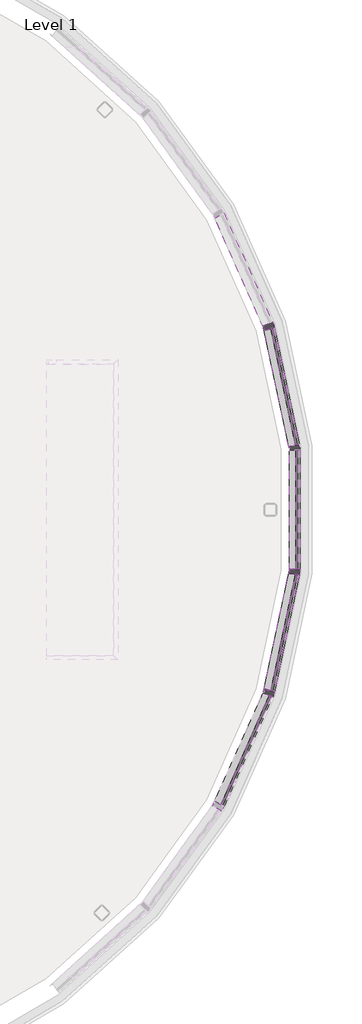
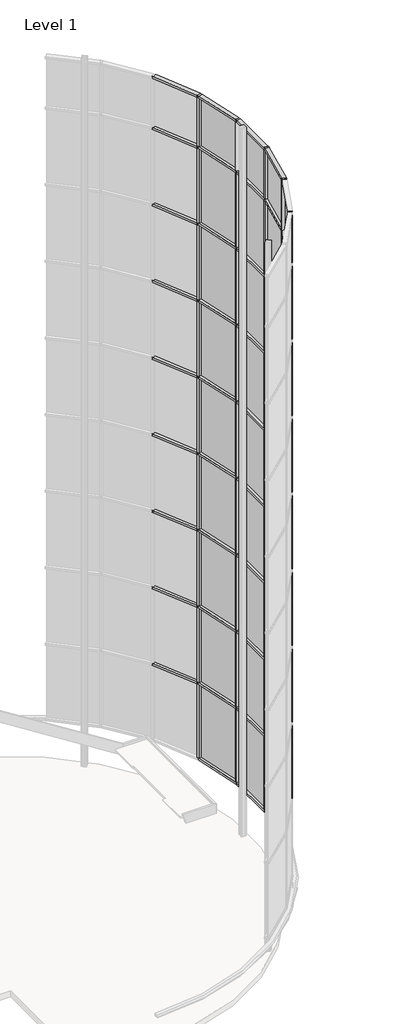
# One storey, part 12 of 16: 83 members, 36 plates.
"""IFC4 building model written with IfcOpenShell, lengths in millimetres."""

from ifc_helpers import new_model, si_unit, origin, place, context, project, spatial, transform, mapped, element, save
from components import member_45463520, member_1666ebf7, member_f0fea5a5, member_788d4f16, system_panel_glazed_294e175a, system_panel_glazed_36605c35, system_panel_glazed_41a16be2

model = new_model("IFC4")

# Units and contexts
model_context = context("Model", 3, world=origin())
ifc_project = project(units=[si_unit("LENGTHUNIT", "METRE", prefix="MILLI")], contexts=[model_context])

# Site, building, storey
site = spatial("IfcSite", under=ifc_project)
building = spatial("IfcBuilding", under=site)
storey = spatial("IfcBuildingStorey", under=building, Name="Level 1", Elevation=0.0)

# Members
placement = place(None, origin())
member_shape = member_45463520(model_context)
element("IfcMember", 1, ObjectType="Rectangular Mullion : 2.5\" x 5\" rectangular", at=placement, inside=storey, context=model_context, shape_type="MappedRepresentation", body=[
    mapped(member_shape, transform((21875.9289382, 7664.1722393, 22250.4), x_axis=(0.0, 0.0, 1.0), y_axis=(-0.9135454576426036, -0.4067366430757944, 0.0), z_axis=(0.4067366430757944, -0.9135454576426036, 0.0))),
])
element("IfcMember", 2, ObjectType="Rectangular Mullion : 2.5\" x 5\" rectangular", at=placement, inside=storey, context=model_context, shape_type="MappedRepresentation", body=[
    mapped(member_shape, transform((22192.5404283, 6206.3822899, 22250.4), x_axis=(0.0, 0.0, 1.0), y_axis=(-0.9781476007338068, -0.20791169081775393, 0.0), z_axis=(0.20791169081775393, -0.9781476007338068, 0.0))),
])
element("IfcMember", 3, ObjectType="Rectangular Mullion : 2.5\" x 5\" rectangular", at=placement, inside=storey, context=model_context, shape_type="MappedRepresentation", body=[
    mapped(member_shape, transform((22199.1416245, 4714.6213182, 22250.4), x_axis=(0.0, 0.0, 1.0), y_axis=(-1.0, 0.0, 0.0), z_axis=(0.0, -1.0, 0.0))),
])
element("IfcMember", 4, ObjectType="Rectangular Mullion : 2.5\" x 5\" rectangular", at=placement, inside=storey, context=model_context, shape_type="MappedRepresentation", body=[
    mapped(member_shape, transform((21895.4440228, 3254.0864371, 22250.4), x_axis=(0.0, 0.0, 1.0), y_axis=(-0.9781476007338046, 0.20791169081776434, 0.0), z_axis=(-0.20791169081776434, -0.9781476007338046, 0.0))),
])
element("IfcMember", 5, ObjectType="Rectangular Mullion : 2.5\" x 5\" rectangular", at=placement, inside=storey, context=model_context, shape_type="MappedRepresentation", body=[
    mapped(member_shape, transform((21895.4440228, 7604.1109847, 1092.2), x_axis=(0.0, 0.0, -1.0), y_axis=(-0.978147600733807, -0.2079116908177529, 0.0), z_axis=(-0.2079116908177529, 0.978147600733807, 0.0))),
])
element("IfcMember", 6, ObjectType="Rectangular Mullion : 2.5\" x 5\" rectangular", at=placement, inside=storey, context=model_context, shape_type="MappedRepresentation", body=[
    mapped(member_shape, transform((22199.1416245, 6143.5761036, 1092.2), x_axis=(0.0, 0.0, -1.0), y_axis=(-1.0, 0.0, 0.0), z_axis=(0.0, 1.0, 0.0))),
])
element("IfcMember", 7, ObjectType="Rectangular Mullion : 2.5\" x 5\" rectangular", at=placement, inside=storey, context=model_context, shape_type="MappedRepresentation", body=[
    mapped(member_shape, transform((22192.5404283, 4651.8151319, 1092.2), x_axis=(0.0, 0.0, -1.0), y_axis=(-0.9781476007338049, 0.20791169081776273, 0.0), z_axis=(0.20791169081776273, 0.9781476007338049, 0.0))),
])
element("IfcMember", 8, ObjectType="Rectangular Mullion : 2.5\" x 5\" rectangular", at=placement, inside=storey, context=model_context, shape_type="MappedRepresentation", body=[
    mapped(member_shape, transform((21875.9289382, 3194.0251825, 1092.2), x_axis=(0.0, 0.0, -1.0), y_axis=(-0.9135454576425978, 0.4067366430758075, 0.0), z_axis=(0.4067366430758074, 0.9135454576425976, 0.0))),
])
member_2_shape = member_1666ebf7(model_context)
element("IfcMember", 9, ObjectType="Rectangular Mullion : 2.5\" x 5\" rectangular", at=placement, inside=storey, context=model_context, shape_type="MappedRepresentation", body=[
    mapped(member_2_shape, transform((21875.9289382, 7664.1722393, 3530.6), x_axis=(0.0, 0.0, 1.0), y_axis=(-0.9135454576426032, -0.4067366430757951, 0.0), z_axis=(0.4067366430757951, -0.9135454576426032, 0.0))),
])
element("IfcMember", 10, ObjectType="Rectangular Mullion : 2.5\" x 5\" rectangular", at=placement, inside=storey, context=model_context, shape_type="MappedRepresentation", body=[
    mapped(member_2_shape, transform((22192.5404283, 6206.3822899, 3530.6), x_axis=(0.0, 0.0, 1.0), y_axis=(-0.9781476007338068, -0.20791169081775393, 0.0), z_axis=(0.20791169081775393, -0.9781476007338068, 0.0))),
])
element("IfcMember", 11, ObjectType="Rectangular Mullion : 2.5\" x 5\" rectangular", at=placement, inside=storey, context=model_context, shape_type="MappedRepresentation", body=[
    mapped(member_2_shape, transform((22199.1416245, 4714.6213182, 3530.6), x_axis=(0.0, 0.0, 1.0), y_axis=(-1.0, 0.0, 0.0), z_axis=(0.0, -1.0, 0.0))),
])
element("IfcMember", 12, ObjectType="Rectangular Mullion : 2.5\" x 5\" rectangular", at=placement, inside=storey, context=model_context, shape_type="MappedRepresentation", body=[
    mapped(member_2_shape, transform((21895.4440228, 3254.0864371, 3530.6), x_axis=(0.0, 0.0, 1.0), y_axis=(-0.9781476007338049, 0.20791169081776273, 0.0), z_axis=(-0.20791169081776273, -0.9781476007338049, 0.0))),
])
element("IfcMember", 13, ObjectType="Rectangular Mullion : 2.5\" x 5\" rectangular", at=placement, inside=storey, context=model_context, shape_type="MappedRepresentation", body=[
    mapped(member_2_shape, transform((21875.9289382, 7664.1722393, 5969.0), x_axis=(0.0, 0.0, 1.0), y_axis=(-0.9135454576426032, -0.4067366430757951, 0.0), z_axis=(0.4067366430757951, -0.9135454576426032, 0.0))),
])
element("IfcMember", 14, ObjectType="Rectangular Mullion : 2.5\" x 5\" rectangular", at=placement, inside=storey, context=model_context, shape_type="MappedRepresentation", body=[
    mapped(member_2_shape, transform((22192.5404283, 6206.3822899, 5969.0), x_axis=(0.0, 0.0, 1.0), y_axis=(-0.9781476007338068, -0.20791169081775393, 0.0), z_axis=(0.20791169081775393, -0.9781476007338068, 0.0))),
])
element("IfcMember", 15, ObjectType="Rectangular Mullion : 2.5\" x 5\" rectangular", at=placement, inside=storey, context=model_context, shape_type="MappedRepresentation", body=[
    mapped(member_2_shape, transform((22199.1416245, 4714.6213182, 5969.0), x_axis=(0.0, 0.0, 1.0), y_axis=(-1.0, 0.0, 0.0), z_axis=(0.0, -1.0, 0.0))),
])
element("IfcMember", 16, ObjectType="Rectangular Mullion : 2.5\" x 5\" rectangular", at=placement, inside=storey, context=model_context, shape_type="MappedRepresentation", body=[
    mapped(member_2_shape, transform((21895.4440228, 3254.0864371, 5969.0), x_axis=(0.0, 0.0, 1.0), y_axis=(-0.9781476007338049, 0.20791169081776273, 0.0), z_axis=(-0.20791169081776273, -0.9781476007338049, 0.0))),
])
element("IfcMember", 17, ObjectType="Rectangular Mullion : 2.5\" x 5\" rectangular", at=placement, inside=storey, context=model_context, shape_type="MappedRepresentation", body=[
    mapped(member_2_shape, transform((21875.9289382, 7664.1722393, 8407.4), x_axis=(0.0, 0.0, 1.0), y_axis=(-0.9135454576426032, -0.4067366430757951, 0.0), z_axis=(0.4067366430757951, -0.9135454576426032, 0.0))),
])
element("IfcMember", 18, ObjectType="Rectangular Mullion : 2.5\" x 5\" rectangular", at=placement, inside=storey, context=model_context, shape_type="MappedRepresentation", body=[
    mapped(member_2_shape, transform((22192.5404283, 6206.3822899, 8407.4), x_axis=(0.0, 0.0, 1.0), y_axis=(-0.9781476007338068, -0.20791169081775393, 0.0), z_axis=(0.20791169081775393, -0.9781476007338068, 0.0))),
])
element("IfcMember", 19, ObjectType="Rectangular Mullion : 2.5\" x 5\" rectangular", at=placement, inside=storey, context=model_context, shape_type="MappedRepresentation", body=[
    mapped(member_2_shape, transform((22199.1416245, 4714.6213182, 8407.4), x_axis=(0.0, 0.0, 1.0), y_axis=(-1.0, 0.0, 0.0), z_axis=(0.0, -1.0, 0.0))),
])
element("IfcMember", 20, ObjectType="Rectangular Mullion : 2.5\" x 5\" rectangular", at=placement, inside=storey, context=model_context, shape_type="MappedRepresentation", body=[
    mapped(member_2_shape, transform((21895.4440228, 3254.0864371, 8407.4), x_axis=(0.0, 0.0, 1.0), y_axis=(-0.9781476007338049, 0.20791169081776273, 0.0), z_axis=(-0.20791169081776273, -0.9781476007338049, 0.0))),
])
element("IfcMember", 21, ObjectType="Rectangular Mullion : 2.5\" x 5\" rectangular", at=placement, inside=storey, context=model_context, shape_type="MappedRepresentation", body=[
    mapped(member_2_shape, transform((21875.9289382, 7664.1722393, 10845.8), x_axis=(0.0, 0.0, 1.0), y_axis=(-0.9135454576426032, -0.4067366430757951, 0.0), z_axis=(0.4067366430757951, -0.9135454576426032, 0.0))),
])
element("IfcMember", 22, ObjectType="Rectangular Mullion : 2.5\" x 5\" rectangular", at=placement, inside=storey, context=model_context, shape_type="MappedRepresentation", body=[
    mapped(member_2_shape, transform((22192.5404283, 6206.3822899, 10845.8), x_axis=(0.0, 0.0, 1.0), y_axis=(-0.9781476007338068, -0.20791169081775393, 0.0), z_axis=(0.20791169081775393, -0.9781476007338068, 0.0))),
])
element("IfcMember", 23, ObjectType="Rectangular Mullion : 2.5\" x 5\" rectangular", at=placement, inside=storey, context=model_context, shape_type="MappedRepresentation", body=[
    mapped(member_2_shape, transform((22199.1416245, 4714.6213182, 10845.8), x_axis=(0.0, 0.0, 1.0), y_axis=(-1.0, 0.0, 0.0), z_axis=(0.0, -1.0, 0.0))),
])
element("IfcMember", 24, ObjectType="Rectangular Mullion : 2.5\" x 5\" rectangular", at=placement, inside=storey, context=model_context, shape_type="MappedRepresentation", body=[
    mapped(member_2_shape, transform((21895.4440228, 3254.0864371, 10845.8), x_axis=(0.0, 0.0, 1.0), y_axis=(-0.9781476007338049, 0.20791169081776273, 0.0), z_axis=(-0.20791169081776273, -0.9781476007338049, 0.0))),
])
element("IfcMember", 25, ObjectType="Rectangular Mullion : 2.5\" x 5\" rectangular", at=placement, inside=storey, context=model_context, shape_type="MappedRepresentation", body=[
    mapped(member_2_shape, transform((21875.9289382, 7664.1722393, 13284.2), x_axis=(0.0, 0.0, 1.0), y_axis=(-0.9135454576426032, -0.4067366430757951, 0.0), z_axis=(0.4067366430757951, -0.9135454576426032, 0.0))),
])
element("IfcMember", 26, ObjectType="Rectangular Mullion : 2.5\" x 5\" rectangular", at=placement, inside=storey, context=model_context, shape_type="MappedRepresentation", body=[
    mapped(member_2_shape, transform((22192.5404283, 6206.3822899, 13284.2), x_axis=(0.0, 0.0, 1.0), y_axis=(-0.9781476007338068, -0.20791169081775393, 0.0), z_axis=(0.20791169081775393, -0.9781476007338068, 0.0))),
])
element("IfcMember", 27, ObjectType="Rectangular Mullion : 2.5\" x 5\" rectangular", at=placement, inside=storey, context=model_context, shape_type="MappedRepresentation", body=[
    mapped(member_2_shape, transform((22199.1416245, 4714.6213182, 13284.2), x_axis=(0.0, 0.0, 1.0), y_axis=(-1.0, 0.0, 0.0), z_axis=(0.0, -1.0, 0.0))),
])
element("IfcMember", 28, ObjectType="Rectangular Mullion : 2.5\" x 5\" rectangular", at=placement, inside=storey, context=model_context, shape_type="MappedRepresentation", body=[
    mapped(member_2_shape, transform((21895.4440228, 3254.0864371, 13284.2), x_axis=(0.0, 0.0, 1.0), y_axis=(-0.9781476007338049, 0.20791169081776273, 0.0), z_axis=(-0.20791169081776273, -0.9781476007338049, 0.0))),
])
element("IfcMember", 29, ObjectType="Rectangular Mullion : 2.5\" x 5\" rectangular", at=placement, inside=storey, context=model_context, shape_type="MappedRepresentation", body=[
    mapped(member_2_shape, transform((21875.9289382, 7664.1722393, 15722.6), x_axis=(0.0, 0.0, 1.0), y_axis=(-0.9135454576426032, -0.4067366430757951, 0.0), z_axis=(0.4067366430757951, -0.9135454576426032, 0.0))),
])
element("IfcMember", 30, ObjectType="Rectangular Mullion : 2.5\" x 5\" rectangular", at=placement, inside=storey, context=model_context, shape_type="MappedRepresentation", body=[
    mapped(member_2_shape, transform((22192.5404283, 6206.3822899, 15722.6), x_axis=(0.0, 0.0, 1.0), y_axis=(-0.9781476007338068, -0.20791169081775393, 0.0), z_axis=(0.20791169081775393, -0.9781476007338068, 0.0))),
])
element("IfcMember", 31, ObjectType="Rectangular Mullion : 2.5\" x 5\" rectangular", at=placement, inside=storey, context=model_context, shape_type="MappedRepresentation", body=[
    mapped(member_2_shape, transform((22199.1416245, 4714.6213182, 15722.6), x_axis=(0.0, 0.0, 1.0), y_axis=(-1.0, 0.0, 0.0), z_axis=(0.0, -1.0, 0.0))),
])
element("IfcMember", 32, ObjectType="Rectangular Mullion : 2.5\" x 5\" rectangular", at=placement, inside=storey, context=model_context, shape_type="MappedRepresentation", body=[
    mapped(member_2_shape, transform((21895.4440228, 3254.0864371, 15722.6), x_axis=(0.0, 0.0, 1.0), y_axis=(-0.9781476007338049, 0.20791169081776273, 0.0), z_axis=(-0.20791169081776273, -0.9781476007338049, 0.0))),
])
element("IfcMember", 33, ObjectType="Rectangular Mullion : 2.5\" x 5\" rectangular", at=placement, inside=storey, context=model_context, shape_type="MappedRepresentation", body=[
    mapped(member_2_shape, transform((21875.9289382, 7664.1722393, 18161.0), x_axis=(0.0, 0.0, 1.0), y_axis=(-0.9135454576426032, -0.4067366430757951, 0.0), z_axis=(0.4067366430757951, -0.9135454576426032, 0.0))),
])
element("IfcMember", 34, ObjectType="Rectangular Mullion : 2.5\" x 5\" rectangular", at=placement, inside=storey, context=model_context, shape_type="MappedRepresentation", body=[
    mapped(member_2_shape, transform((22192.5404283, 6206.3822899, 18161.0), x_axis=(0.0, 0.0, 1.0), y_axis=(-0.9781476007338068, -0.20791169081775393, 0.0), z_axis=(0.20791169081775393, -0.9781476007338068, 0.0))),
])
element("IfcMember", 35, ObjectType="Rectangular Mullion : 2.5\" x 5\" rectangular", at=placement, inside=storey, context=model_context, shape_type="MappedRepresentation", body=[
    mapped(member_2_shape, transform((22199.1416245, 4714.6213182, 18161.0), x_axis=(0.0, 0.0, 1.0), y_axis=(-1.0, 0.0, 0.0), z_axis=(0.0, -1.0, 0.0))),
])
element("IfcMember", 36, ObjectType="Rectangular Mullion : 2.5\" x 5\" rectangular", at=placement, inside=storey, context=model_context, shape_type="MappedRepresentation", body=[
    mapped(member_2_shape, transform((21895.4440228, 3254.0864371, 18161.0), x_axis=(0.0, 0.0, 1.0), y_axis=(-0.9781476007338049, 0.20791169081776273, 0.0), z_axis=(-0.20791169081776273, -0.9781476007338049, 0.0))),
])
element("IfcMember", 37, ObjectType="Rectangular Mullion : 2.5\" x 5\" rectangular", at=placement, inside=storey, context=model_context, shape_type="MappedRepresentation", body=[
    mapped(member_2_shape, transform((21875.9289382, 7664.1722393, 20599.4), x_axis=(0.0, 0.0, 1.0), y_axis=(-0.9135454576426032, -0.4067366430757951, 0.0), z_axis=(0.4067366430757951, -0.9135454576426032, 0.0))),
])
element("IfcMember", 38, ObjectType="Rectangular Mullion : 2.5\" x 5\" rectangular", at=placement, inside=storey, context=model_context, shape_type="MappedRepresentation", body=[
    mapped(member_2_shape, transform((22192.5404283, 6206.3822899, 20599.4), x_axis=(0.0, 0.0, 1.0), y_axis=(-0.9781476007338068, -0.20791169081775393, 0.0), z_axis=(0.20791169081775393, -0.9781476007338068, 0.0))),
])
element("IfcMember", 39, ObjectType="Rectangular Mullion : 2.5\" x 5\" rectangular", at=placement, inside=storey, context=model_context, shape_type="MappedRepresentation", body=[
    mapped(member_2_shape, transform((22199.1416245, 4714.6213182, 20599.4), x_axis=(0.0, 0.0, 1.0), y_axis=(-1.0, 0.0, 0.0), z_axis=(0.0, -1.0, 0.0))),
])
element("IfcMember", 40, ObjectType="Rectangular Mullion : 2.5\" x 5\" rectangular", at=placement, inside=storey, context=model_context, shape_type="MappedRepresentation", body=[
    mapped(member_2_shape, transform((21895.4440228, 3254.0864371, 20599.4), x_axis=(0.0, 0.0, 1.0), y_axis=(-0.9781476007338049, 0.20791169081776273, 0.0), z_axis=(-0.20791169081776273, -0.9781476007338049, 0.0))),
])
member_3_shape = member_f0fea5a5(model_context)
element("IfcMember", 41, ObjectType="Rectangular Mullion : 2.5\" x 5\" rectangular", at=placement, inside=storey, context=model_context, shape_type="MappedRepresentation", body=[
    mapped(member_3_shape, transform((21888.8428266, 7635.167171, 1092.2), x_axis=(0.30901699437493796, -0.9510565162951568, 0.0), y_axis=(-0.9510565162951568, -0.30901699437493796, 0.0), z_axis=(0.0, 0.0, -1.0))),
])
element("IfcMember", 42, ObjectType="Rectangular Mullion : 2.5\" x 5\" rectangular", at=placement, inside=storey, context=model_context, shape_type="MappedRepresentation", body=[
    mapped(member_3_shape, transform((22199.1416245, 6175.3261036, 1092.2), x_axis=(0.10452846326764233, -0.9945218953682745, 0.0), y_axis=(-0.9945218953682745, -0.10452846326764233, 0.0), z_axis=(0.0, 0.0, -1.0))),
])
element("IfcMember", 43, ObjectType="Rectangular Mullion : 2.5\" x 5\" rectangular", at=placement, inside=storey, context=model_context, shape_type="MappedRepresentation", body=[
    mapped(member_3_shape, transform((22199.1416245, 4682.8713182, 1092.2), x_axis=(-0.10452846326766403, -0.9945218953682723, 0.0), y_axis=(-0.9945218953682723, 0.10452846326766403, 0.0), z_axis=(0.0, 0.0, -1.0))),
])
element("IfcMember", 44, ObjectType="Rectangular Mullion : 2.5\" x 5\" rectangular", at=placement, inside=storey, context=model_context, shape_type="MappedRepresentation", body=[
    mapped(member_3_shape, transform((21888.8428266, 3223.0302508, 1092.2), x_axis=(-0.3090169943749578, -0.9510565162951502, 0.0), y_axis=(-0.9510565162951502, 0.3090169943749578, 0.0), z_axis=(0.0, 0.0, -1.0))),
])
element("IfcMember", 45, ObjectType="Rectangular Mullion : 2.5\" x 5\" rectangular", at=placement, inside=storey, context=model_context, shape_type="MappedRepresentation", body=[
    mapped(member_3_shape, transform((21888.8428266, 7635.167171, 3530.6), x_axis=(0.30901699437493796, -0.9510565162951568, 0.0), y_axis=(-0.9510565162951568, -0.30901699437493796, 0.0), z_axis=(0.0, 0.0, -1.0))),
])
element("IfcMember", 46, ObjectType="Rectangular Mullion : 2.5\" x 5\" rectangular", at=placement, inside=storey, context=model_context, shape_type="MappedRepresentation", body=[
    mapped(member_3_shape, transform((22199.1416245, 6175.3261036, 3530.6), x_axis=(0.10452846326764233, -0.9945218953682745, 0.0), y_axis=(-0.9945218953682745, -0.10452846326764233, 0.0), z_axis=(0.0, 0.0, -1.0))),
])
element("IfcMember", 47, ObjectType="Rectangular Mullion : 2.5\" x 5\" rectangular", at=placement, inside=storey, context=model_context, shape_type="MappedRepresentation", body=[
    mapped(member_3_shape, transform((22199.1416245, 4682.8713182, 3530.6), x_axis=(-0.10452846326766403, -0.9945218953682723, 0.0), y_axis=(-0.9945218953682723, 0.10452846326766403, 0.0), z_axis=(0.0, 0.0, -1.0))),
])
element("IfcMember", 48, ObjectType="Rectangular Mullion : 2.5\" x 5\" rectangular", at=placement, inside=storey, context=model_context, shape_type="MappedRepresentation", body=[
    mapped(member_3_shape, transform((21888.8428266, 3223.0302508, 3530.6), x_axis=(-0.3090169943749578, -0.9510565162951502, 0.0), y_axis=(-0.9510565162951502, 0.3090169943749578, 0.0), z_axis=(0.0, 0.0, -1.0))),
])
element("IfcMember", 49, ObjectType="Rectangular Mullion : 2.5\" x 5\" rectangular", at=placement, inside=storey, context=model_context, shape_type="MappedRepresentation", body=[
    mapped(member_3_shape, transform((21281.8067773, 1859.6049609, 3530.6), x_axis=(-0.5000000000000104, -0.8660254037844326, 0.0), y_axis=(-0.8660254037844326, 0.5000000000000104, 0.0), z_axis=(0.0, 0.0, -1.0))),
])
element("IfcMember", 50, ObjectType="Rectangular Mullion : 2.5\" x 5\" rectangular", at=placement, inside=storey, context=model_context, shape_type="MappedRepresentation", body=[
    mapped(member_3_shape, transform((21888.8428266, 7635.167171, 5969.0), x_axis=(0.30901699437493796, -0.9510565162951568, 0.0), y_axis=(-0.9510565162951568, -0.30901699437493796, 0.0), z_axis=(0.0, 0.0, -1.0))),
])
element("IfcMember", 51, ObjectType="Rectangular Mullion : 2.5\" x 5\" rectangular", at=placement, inside=storey, context=model_context, shape_type="MappedRepresentation", body=[
    mapped(member_3_shape, transform((22199.1416245, 6175.3261036, 5969.0), x_axis=(0.10452846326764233, -0.9945218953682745, 0.0), y_axis=(-0.9945218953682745, -0.10452846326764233, 0.0), z_axis=(0.0, 0.0, -1.0))),
])
element("IfcMember", 52, ObjectType="Rectangular Mullion : 2.5\" x 5\" rectangular", at=placement, inside=storey, context=model_context, shape_type="MappedRepresentation", body=[
    mapped(member_3_shape, transform((22199.1416245, 4682.8713182, 5969.0), x_axis=(-0.10452846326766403, -0.9945218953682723, 0.0), y_axis=(-0.9945218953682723, 0.10452846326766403, 0.0), z_axis=(0.0, 0.0, -1.0))),
])
element("IfcMember", 53, ObjectType="Rectangular Mullion : 2.5\" x 5\" rectangular", at=placement, inside=storey, context=model_context, shape_type="MappedRepresentation", body=[
    mapped(member_3_shape, transform((21888.8428266, 3223.0302508, 5969.0), x_axis=(-0.3090169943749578, -0.9510565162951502, 0.0), y_axis=(-0.9510565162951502, 0.3090169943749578, 0.0), z_axis=(0.0, 0.0, -1.0))),
])
element("IfcMember", 54, ObjectType="Rectangular Mullion : 2.5\" x 5\" rectangular", at=placement, inside=storey, context=model_context, shape_type="MappedRepresentation", body=[
    mapped(member_3_shape, transform((21281.8067773, 1859.6049609, 5969.0), x_axis=(-0.5000000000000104, -0.8660254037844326, 0.0), y_axis=(-0.8660254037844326, 0.5000000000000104, 0.0), z_axis=(0.0, 0.0, -1.0))),
])
element("IfcMember", 55, ObjectType="Rectangular Mullion : 2.5\" x 5\" rectangular", at=placement, inside=storey, context=model_context, shape_type="MappedRepresentation", body=[
    mapped(member_3_shape, transform((21888.8428266, 7635.167171, 8407.4), x_axis=(0.30901699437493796, -0.9510565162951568, 0.0), y_axis=(-0.9510565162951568, -0.30901699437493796, 0.0), z_axis=(0.0, 0.0, -1.0))),
])
element("IfcMember", 56, ObjectType="Rectangular Mullion : 2.5\" x 5\" rectangular", at=placement, inside=storey, context=model_context, shape_type="MappedRepresentation", body=[
    mapped(member_3_shape, transform((22199.1416245, 6175.3261036, 8407.4), x_axis=(0.10452846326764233, -0.9945218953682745, 0.0), y_axis=(-0.9945218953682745, -0.10452846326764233, 0.0), z_axis=(0.0, 0.0, -1.0))),
])
element("IfcMember", 57, ObjectType="Rectangular Mullion : 2.5\" x 5\" rectangular", at=placement, inside=storey, context=model_context, shape_type="MappedRepresentation", body=[
    mapped(member_3_shape, transform((22199.1416245, 4682.8713182, 8407.4), x_axis=(-0.10452846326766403, -0.9945218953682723, 0.0), y_axis=(-0.9945218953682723, 0.10452846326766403, 0.0), z_axis=(0.0, 0.0, -1.0))),
])
element("IfcMember", 58, ObjectType="Rectangular Mullion : 2.5\" x 5\" rectangular", at=placement, inside=storey, context=model_context, shape_type="MappedRepresentation", body=[
    mapped(member_3_shape, transform((21888.8428266, 3223.0302508, 8407.4), x_axis=(-0.3090169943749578, -0.9510565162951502, 0.0), y_axis=(-0.9510565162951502, 0.3090169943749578, 0.0), z_axis=(0.0, 0.0, -1.0))),
])
element("IfcMember", 59, ObjectType="Rectangular Mullion : 2.5\" x 5\" rectangular", at=placement, inside=storey, context=model_context, shape_type="MappedRepresentation", body=[
    mapped(member_3_shape, transform((21281.8067773, 1859.6049609, 8407.4), x_axis=(-0.5000000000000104, -0.8660254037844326, 0.0), y_axis=(-0.8660254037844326, 0.5000000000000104, 0.0), z_axis=(0.0, 0.0, -1.0))),
])
element("IfcMember", 60, ObjectType="Rectangular Mullion : 2.5\" x 5\" rectangular", at=placement, inside=storey, context=model_context, shape_type="MappedRepresentation", body=[
    mapped(member_3_shape, transform((21888.8428266, 7635.167171, 10845.8), x_axis=(0.30901699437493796, -0.9510565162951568, 0.0), y_axis=(-0.9510565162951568, -0.30901699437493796, 0.0), z_axis=(0.0, 0.0, -1.0))),
])
element("IfcMember", 61, ObjectType="Rectangular Mullion : 2.5\" x 5\" rectangular", at=placement, inside=storey, context=model_context, shape_type="MappedRepresentation", body=[
    mapped(member_3_shape, transform((22199.1416245, 6175.3261036, 10845.8), x_axis=(0.10452846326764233, -0.9945218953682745, 0.0), y_axis=(-0.9945218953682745, -0.10452846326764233, 0.0), z_axis=(0.0, 0.0, -1.0))),
])
element("IfcMember", 62, ObjectType="Rectangular Mullion : 2.5\" x 5\" rectangular", at=placement, inside=storey, context=model_context, shape_type="MappedRepresentation", body=[
    mapped(member_3_shape, transform((22199.1416245, 4682.8713182, 10845.8), x_axis=(-0.10452846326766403, -0.9945218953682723, 0.0), y_axis=(-0.9945218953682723, 0.10452846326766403, 0.0), z_axis=(0.0, 0.0, -1.0))),
])
element("IfcMember", 63, ObjectType="Rectangular Mullion : 2.5\" x 5\" rectangular", at=placement, inside=storey, context=model_context, shape_type="MappedRepresentation", body=[
    mapped(member_3_shape, transform((21888.8428266, 3223.0302508, 10845.8), x_axis=(-0.3090169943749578, -0.9510565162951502, 0.0), y_axis=(-0.9510565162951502, 0.3090169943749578, 0.0), z_axis=(0.0, 0.0, -1.0))),
])
element("IfcMember", 64, ObjectType="Rectangular Mullion : 2.5\" x 5\" rectangular", at=placement, inside=storey, context=model_context, shape_type="MappedRepresentation", body=[
    mapped(member_3_shape, transform((21281.8067773, 1859.6049609, 10845.8), x_axis=(-0.5000000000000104, -0.8660254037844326, 0.0), y_axis=(-0.8660254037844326, 0.5000000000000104, 0.0), z_axis=(0.0, 0.0, -1.0))),
])
element("IfcMember", 65, ObjectType="Rectangular Mullion : 2.5\" x 5\" rectangular", at=placement, inside=storey, context=model_context, shape_type="MappedRepresentation", body=[
    mapped(member_3_shape, transform((21888.8428266, 7635.167171, 13284.2), x_axis=(0.30901699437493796, -0.9510565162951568, 0.0), y_axis=(-0.9510565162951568, -0.30901699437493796, 0.0), z_axis=(0.0, 0.0, -1.0))),
])
element("IfcMember", 66, ObjectType="Rectangular Mullion : 2.5\" x 5\" rectangular", at=placement, inside=storey, context=model_context, shape_type="MappedRepresentation", body=[
    mapped(member_3_shape, transform((22199.1416245, 6175.3261036, 13284.2), x_axis=(0.10452846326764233, -0.9945218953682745, 0.0), y_axis=(-0.9945218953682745, -0.10452846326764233, 0.0), z_axis=(0.0, 0.0, -1.0))),
])
element("IfcMember", 67, ObjectType="Rectangular Mullion : 2.5\" x 5\" rectangular", at=placement, inside=storey, context=model_context, shape_type="MappedRepresentation", body=[
    mapped(member_3_shape, transform((22199.1416245, 4682.8713182, 13284.2), x_axis=(-0.10452846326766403, -0.9945218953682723, 0.0), y_axis=(-0.9945218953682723, 0.10452846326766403, 0.0), z_axis=(0.0, 0.0, -1.0))),
])
element("IfcMember", 68, ObjectType="Rectangular Mullion : 2.5\" x 5\" rectangular", at=placement, inside=storey, context=model_context, shape_type="MappedRepresentation", body=[
    mapped(member_3_shape, transform((21888.8428266, 3223.0302508, 13284.2), x_axis=(-0.3090169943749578, -0.9510565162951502, 0.0), y_axis=(-0.9510565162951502, 0.3090169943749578, 0.0), z_axis=(0.0, 0.0, -1.0))),
])
element("IfcMember", 69, ObjectType="Rectangular Mullion : 2.5\" x 5\" rectangular", at=placement, inside=storey, context=model_context, shape_type="MappedRepresentation", body=[
    mapped(member_3_shape, transform((21281.8067773, 1859.6049609, 13284.2), x_axis=(-0.5000000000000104, -0.8660254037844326, 0.0), y_axis=(-0.8660254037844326, 0.5000000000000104, 0.0), z_axis=(0.0, 0.0, -1.0))),
])
element("IfcMember", 70, ObjectType="Rectangular Mullion : 2.5\" x 5\" rectangular", at=placement, inside=storey, context=model_context, shape_type="MappedRepresentation", body=[
    mapped(member_3_shape, transform((21888.8428266, 7635.167171, 15722.6), x_axis=(0.30901699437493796, -0.9510565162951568, 0.0), y_axis=(-0.9510565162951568, -0.30901699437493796, 0.0), z_axis=(0.0, 0.0, -1.0))),
])
element("IfcMember", 71, ObjectType="Rectangular Mullion : 2.5\" x 5\" rectangular", at=placement, inside=storey, context=model_context, shape_type="MappedRepresentation", body=[
    mapped(member_3_shape, transform((22199.1416245, 6175.3261036, 15722.6), x_axis=(0.10452846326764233, -0.9945218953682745, 0.0), y_axis=(-0.9945218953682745, -0.10452846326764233, 0.0), z_axis=(0.0, 0.0, -1.0))),
])
element("IfcMember", 72, ObjectType="Rectangular Mullion : 2.5\" x 5\" rectangular", at=placement, inside=storey, context=model_context, shape_type="MappedRepresentation", body=[
    mapped(member_3_shape, transform((22199.1416245, 4682.8713182, 15722.6), x_axis=(-0.10452846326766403, -0.9945218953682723, 0.0), y_axis=(-0.9945218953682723, 0.10452846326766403, 0.0), z_axis=(0.0, 0.0, -1.0))),
])
element("IfcMember", 73, ObjectType="Rectangular Mullion : 2.5\" x 5\" rectangular", at=placement, inside=storey, context=model_context, shape_type="MappedRepresentation", body=[
    mapped(member_3_shape, transform((21888.8428266, 3223.0302508, 15722.6), x_axis=(-0.3090169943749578, -0.9510565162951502, 0.0), y_axis=(-0.9510565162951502, 0.3090169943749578, 0.0), z_axis=(0.0, 0.0, -1.0))),
])
element("IfcMember", 74, ObjectType="Rectangular Mullion : 2.5\" x 5\" rectangular", at=placement, inside=storey, context=model_context, shape_type="MappedRepresentation", body=[
    mapped(member_3_shape, transform((21281.8067773, 1859.6049609, 15722.6), x_axis=(-0.5000000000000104, -0.8660254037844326, 0.0), y_axis=(-0.8660254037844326, 0.5000000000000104, 0.0), z_axis=(0.0, 0.0, -1.0))),
])
element("IfcMember", 75, ObjectType="Rectangular Mullion : 2.5\" x 5\" rectangular", at=placement, inside=storey, context=model_context, shape_type="MappedRepresentation", body=[
    mapped(member_3_shape, transform((21888.8428266, 7635.167171, 18161.0), x_axis=(0.309016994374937, -0.951056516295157, 0.0), y_axis=(-0.951056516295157, -0.309016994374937, 0.0), z_axis=(0.0, 0.0, -1.0))),
])
element("IfcMember", 76, ObjectType="Rectangular Mullion : 2.5\" x 5\" rectangular", at=placement, inside=storey, context=model_context, shape_type="MappedRepresentation", body=[
    mapped(member_3_shape, transform((22199.1416245, 6175.3261036, 18161.0), x_axis=(0.10452846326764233, -0.9945218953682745, 0.0), y_axis=(-0.9945218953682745, -0.10452846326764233, 0.0), z_axis=(0.0, 0.0, -1.0))),
])
element("IfcMember", 77, ObjectType="Rectangular Mullion : 2.5\" x 5\" rectangular", at=placement, inside=storey, context=model_context, shape_type="MappedRepresentation", body=[
    mapped(member_3_shape, transform((22199.1416245, 4682.8713182, 18161.0), x_axis=(-0.10452846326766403, -0.9945218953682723, 0.0), y_axis=(-0.9945218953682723, 0.10452846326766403, 0.0), z_axis=(0.0, 0.0, -1.0))),
])
element("IfcMember", 78, ObjectType="Rectangular Mullion : 2.5\" x 5\" rectangular", at=placement, inside=storey, context=model_context, shape_type="MappedRepresentation", body=[
    mapped(member_3_shape, transform((21888.8428266, 3223.0302508, 18161.0), x_axis=(-0.3090169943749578, -0.9510565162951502, 0.0), y_axis=(-0.9510565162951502, 0.3090169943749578, 0.0), z_axis=(0.0, 0.0, -1.0))),
])
element("IfcMember", 79, ObjectType="Rectangular Mullion : 2.5\" x 5\" rectangular", at=placement, inside=storey, context=model_context, shape_type="MappedRepresentation", body=[
    mapped(member_3_shape, transform((21281.8067773, 1859.6049609, 18161.0), x_axis=(-0.5000000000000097, -0.866025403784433, 0.0), y_axis=(-0.866025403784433, 0.5000000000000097, 0.0), z_axis=(0.0, 0.0, -1.0))),
])
member_4_shape = member_788d4f16(model_context)
element("IfcMember", 80, ObjectType="Rectangular Mullion : 2.5\" x 5\" rectangular", at=placement, inside=storey, context=model_context, shape_type="MappedRepresentation", body=[
    mapped(member_4_shape, transform((21888.8428266, 7635.167171, 20599.4), x_axis=(0.309016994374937, -0.951056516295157, 0.0), y_axis=(-0.951056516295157, -0.309016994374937, 0.0), z_axis=(0.0, 0.0, -1.0))),
])
element("IfcMember", 81, ObjectType="Rectangular Mullion : 2.5\" x 5\" rectangular", at=placement, inside=storey, context=model_context, shape_type="MappedRepresentation", body=[
    mapped(member_4_shape, transform((22199.1416245, 4682.8713182, 20599.4), x_axis=(-0.1045284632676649, -0.9945218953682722, 0.0), y_axis=(-0.9945218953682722, 0.1045284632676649, 0.0), z_axis=(0.0, 0.0, -1.0))),
])
element("IfcMember", 82, ObjectType="Rectangular Mullion : 2.5\" x 5\" rectangular", at=placement, inside=storey, context=model_context, shape_type="MappedRepresentation", body=[
    mapped(member_4_shape, transform((21888.8428266, 3223.0302508, 20599.4), x_axis=(-0.3090169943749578, -0.9510565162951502, 0.0), y_axis=(-0.9510565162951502, 0.3090169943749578, 0.0), z_axis=(0.0, 0.0, -1.0))),
])
element("IfcMember", 83, ObjectType="Rectangular Mullion : 2.5\" x 5\" rectangular", at=placement, inside=storey, context=model_context, shape_type="MappedRepresentation", body=[
    mapped(member_4_shape, transform((21281.8067773, 1859.6049609, 20599.4), x_axis=(-0.5000000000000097, -0.866025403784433, 0.0), y_axis=(-0.866025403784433, 0.5000000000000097, 0.0), z_axis=(0.0, 0.0, -1.0))),
])

# Plates
system_panel_glazed_shape = system_panel_glazed_294e175a(model_context)
element("IfcPlate", 84, ObjectType="System Panel : Glazed", at=placement, inside=storey, context=model_context, shape_type="MappedRepresentation", body=[
    mapped(system_panel_glazed_shape, transform((22043.9922256, 6905.2466373, 1155.7), x_axis=(0.20791169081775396, -0.9781476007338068, 0.0), y_axis=(0.9781476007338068, 0.20791169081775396, 0.0), z_axis=(0.0, 0.0, 1.0))),
])
element("IfcPlate", 85, ObjectType="System Panel : Glazed", at=placement, inside=storey, context=model_context, shape_type="MappedRepresentation", body=[
    mapped(system_panel_glazed_shape, transform((22199.1416245, 5429.0987109, 1155.7), x_axis=(0.0, -1.0, 0.0), y_axis=(1.0, 0.0, 0.0), z_axis=(0.0, 0.0, 1.0))),
])
element("IfcPlate", 86, ObjectType="System Panel : Glazed", at=placement, inside=storey, context=model_context, shape_type="MappedRepresentation", body=[
    mapped(system_panel_glazed_shape, transform((22043.9922256, 3952.9507845, 1155.7), x_axis=(-0.20791169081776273, -0.9781476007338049, 0.0), y_axis=(0.9781476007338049, -0.20791169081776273, 0.0), z_axis=(0.0, 0.0, 1.0))),
])
element("IfcPlate", 87, ObjectType="System Panel : Glazed", at=placement, inside=storey, context=model_context, shape_type="MappedRepresentation", body=[
    mapped(system_panel_glazed_shape, transform((21585.324802, 2541.3176058, 1155.7), x_axis=(-0.4067366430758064, -0.9135454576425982, 0.0), y_axis=(0.9135454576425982, -0.4067366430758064, 0.0), z_axis=(0.0, 0.0, 1.0))),
])
system_panel_glazed_2_shape = system_panel_glazed_36605c35(model_context)
element("IfcPlate", 88, ObjectType="System Panel : Glazed", at=placement, inside=storey, context=model_context, shape_type="MappedRepresentation", body=[
    mapped(system_panel_glazed_2_shape, transform((22043.9922256, 6905.2466373, 3562.35), x_axis=(0.20791169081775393, -0.9781476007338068, 0.0), y_axis=(0.9781476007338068, 0.20791169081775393, 0.0), z_axis=(0.0, 0.0, 1.0))),
])
element("IfcPlate", 89, ObjectType="System Panel : Glazed", at=placement, inside=storey, context=model_context, shape_type="MappedRepresentation", body=[
    mapped(system_panel_glazed_2_shape, transform((22199.1416245, 5429.0987109, 3562.35), x_axis=(0.0, -1.0, 0.0), y_axis=(1.0, 0.0, 0.0), z_axis=(0.0, 0.0, 1.0))),
])
element("IfcPlate", 90, ObjectType="System Panel : Glazed", at=placement, inside=storey, context=model_context, shape_type="MappedRepresentation", body=[
    mapped(system_panel_glazed_2_shape, transform((22043.9922256, 3952.9507845, 3562.35), x_axis=(-0.20791169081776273, -0.9781476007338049, 0.0), y_axis=(0.9781476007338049, -0.20791169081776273, 0.0), z_axis=(0.0, 0.0, 1.0))),
])
element("IfcPlate", 91, ObjectType="System Panel : Glazed", at=placement, inside=storey, context=model_context, shape_type="MappedRepresentation", body=[
    mapped(system_panel_glazed_2_shape, transform((21585.324802, 2541.3176058, 3562.35), x_axis=(-0.4067366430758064, -0.9135454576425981, 0.0), y_axis=(0.9135454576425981, -0.4067366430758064, 0.0), z_axis=(0.0, 0.0, 1.0))),
])
element("IfcPlate", 92, ObjectType="System Panel : Glazed", at=placement, inside=storey, context=model_context, shape_type="MappedRepresentation", body=[
    mapped(system_panel_glazed_2_shape, transform((22043.9922256, 6905.2466373, 6000.75), x_axis=(0.20791169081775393, -0.9781476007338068, 0.0), y_axis=(0.9781476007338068, 0.20791169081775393, 0.0), z_axis=(0.0, 0.0, 1.0))),
])
element("IfcPlate", 93, ObjectType="System Panel : Glazed", at=placement, inside=storey, context=model_context, shape_type="MappedRepresentation", body=[
    mapped(system_panel_glazed_2_shape, transform((22199.1416245, 5429.0987109, 6000.75), x_axis=(0.0, -1.0, 0.0), y_axis=(1.0, 0.0, 0.0), z_axis=(0.0, 0.0, 1.0))),
])
element("IfcPlate", 94, ObjectType="System Panel : Glazed", at=placement, inside=storey, context=model_context, shape_type="MappedRepresentation", body=[
    mapped(system_panel_glazed_2_shape, transform((22043.9922256, 3952.9507845, 6000.75), x_axis=(-0.20791169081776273, -0.9781476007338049, 0.0), y_axis=(0.9781476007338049, -0.20791169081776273, 0.0), z_axis=(0.0, 0.0, 1.0))),
])
element("IfcPlate", 95, ObjectType="System Panel : Glazed", at=placement, inside=storey, context=model_context, shape_type="MappedRepresentation", body=[
    mapped(system_panel_glazed_2_shape, transform((21585.324802, 2541.3176058, 6000.75), x_axis=(-0.4067366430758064, -0.9135454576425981, 0.0), y_axis=(0.9135454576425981, -0.4067366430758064, 0.0), z_axis=(0.0, 0.0, 1.0))),
])
element("IfcPlate", 96, ObjectType="System Panel : Glazed", at=placement, inside=storey, context=model_context, shape_type="MappedRepresentation", body=[
    mapped(system_panel_glazed_2_shape, transform((22043.9922256, 6905.2466373, 8439.15), x_axis=(0.20791169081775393, -0.9781476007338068, 0.0), y_axis=(0.9781476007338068, 0.20791169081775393, 0.0), z_axis=(0.0, 0.0, 1.0))),
])
element("IfcPlate", 97, ObjectType="System Panel : Glazed", at=placement, inside=storey, context=model_context, shape_type="MappedRepresentation", body=[
    mapped(system_panel_glazed_2_shape, transform((22199.1416245, 5429.0987109, 8439.15), x_axis=(0.0, -1.0, 0.0), y_axis=(1.0, 0.0, 0.0), z_axis=(0.0, 0.0, 1.0))),
])
element("IfcPlate", 98, ObjectType="System Panel : Glazed", at=placement, inside=storey, context=model_context, shape_type="MappedRepresentation", body=[
    mapped(system_panel_glazed_2_shape, transform((22043.9922256, 3952.9507845, 8439.15), x_axis=(-0.20791169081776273, -0.9781476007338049, 0.0), y_axis=(0.9781476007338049, -0.20791169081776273, 0.0), z_axis=(0.0, 0.0, 1.0))),
])
element("IfcPlate", 99, ObjectType="System Panel : Glazed", at=placement, inside=storey, context=model_context, shape_type="MappedRepresentation", body=[
    mapped(system_panel_glazed_2_shape, transform((21585.324802, 2541.3176058, 8439.15), x_axis=(-0.4067366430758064, -0.9135454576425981, 0.0), y_axis=(0.9135454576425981, -0.4067366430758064, 0.0), z_axis=(0.0, 0.0, 1.0))),
])
element("IfcPlate", 100, ObjectType="System Panel : Glazed", at=placement, inside=storey, context=model_context, shape_type="MappedRepresentation", body=[
    mapped(system_panel_glazed_2_shape, transform((22043.9922256, 6905.2466373, 10877.55), x_axis=(0.20791169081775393, -0.9781476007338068, 0.0), y_axis=(0.9781476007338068, 0.20791169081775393, 0.0), z_axis=(0.0, 0.0, 1.0))),
])
element("IfcPlate", 101, ObjectType="System Panel : Glazed", at=placement, inside=storey, context=model_context, shape_type="MappedRepresentation", body=[
    mapped(system_panel_glazed_2_shape, transform((22199.1416245, 5429.0987109, 10877.55), x_axis=(0.0, -1.0, 0.0), y_axis=(1.0, 0.0, 0.0), z_axis=(0.0, 0.0, 1.0))),
])
element("IfcPlate", 102, ObjectType="System Panel : Glazed", at=placement, inside=storey, context=model_context, shape_type="MappedRepresentation", body=[
    mapped(system_panel_glazed_2_shape, transform((22043.9922256, 3952.9507845, 10877.55), x_axis=(-0.20791169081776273, -0.9781476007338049, 0.0), y_axis=(0.9781476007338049, -0.20791169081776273, 0.0), z_axis=(0.0, 0.0, 1.0))),
])
element("IfcPlate", 103, ObjectType="System Panel : Glazed", at=placement, inside=storey, context=model_context, shape_type="MappedRepresentation", body=[
    mapped(system_panel_glazed_2_shape, transform((21585.324802, 2541.3176058, 10877.55), x_axis=(-0.4067366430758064, -0.9135454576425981, 0.0), y_axis=(0.9135454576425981, -0.4067366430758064, 0.0), z_axis=(0.0, 0.0, 1.0))),
])
element("IfcPlate", 104, ObjectType="System Panel : Glazed", at=placement, inside=storey, context=model_context, shape_type="MappedRepresentation", body=[
    mapped(system_panel_glazed_2_shape, transform((22043.9922256, 6905.2466373, 13315.95), x_axis=(0.20791169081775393, -0.9781476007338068, 0.0), y_axis=(0.9781476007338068, 0.20791169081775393, 0.0), z_axis=(0.0, 0.0, 1.0))),
])
element("IfcPlate", 105, ObjectType="System Panel : Glazed", at=placement, inside=storey, context=model_context, shape_type="MappedRepresentation", body=[
    mapped(system_panel_glazed_2_shape, transform((22199.1416245, 5429.0987109, 13315.95), x_axis=(0.0, -1.0, 0.0), y_axis=(1.0, 0.0, 0.0), z_axis=(0.0, 0.0, 1.0))),
])
element("IfcPlate", 106, ObjectType="System Panel : Glazed", at=placement, inside=storey, context=model_context, shape_type="MappedRepresentation", body=[
    mapped(system_panel_glazed_2_shape, transform((22043.9922256, 3952.9507845, 13315.95), x_axis=(-0.20791169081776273, -0.9781476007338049, 0.0), y_axis=(0.9781476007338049, -0.20791169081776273, 0.0), z_axis=(0.0, 0.0, 1.0))),
])
element("IfcPlate", 107, ObjectType="System Panel : Glazed", at=placement, inside=storey, context=model_context, shape_type="MappedRepresentation", body=[
    mapped(system_panel_glazed_2_shape, transform((21585.324802, 2541.3176058, 13315.95), x_axis=(-0.4067366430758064, -0.9135454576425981, 0.0), y_axis=(0.9135454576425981, -0.4067366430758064, 0.0), z_axis=(0.0, 0.0, 1.0))),
])
element("IfcPlate", 108, ObjectType="System Panel : Glazed", at=placement, inside=storey, context=model_context, shape_type="MappedRepresentation", body=[
    mapped(system_panel_glazed_2_shape, transform((22043.9922256, 6905.2466373, 15754.35), x_axis=(0.20791169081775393, -0.9781476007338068, 0.0), y_axis=(0.9781476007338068, 0.20791169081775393, 0.0), z_axis=(0.0, 0.0, 1.0))),
])
element("IfcPlate", 109, ObjectType="System Panel : Glazed", at=placement, inside=storey, context=model_context, shape_type="MappedRepresentation", body=[
    mapped(system_panel_glazed_2_shape, transform((22199.1416245, 5429.0987109, 15754.35), x_axis=(0.0, -1.0, 0.0), y_axis=(1.0, 0.0, 0.0), z_axis=(0.0, 0.0, 1.0))),
])
element("IfcPlate", 110, ObjectType="System Panel : Glazed", at=placement, inside=storey, context=model_context, shape_type="MappedRepresentation", body=[
    mapped(system_panel_glazed_2_shape, transform((22043.9922256, 3952.9507845, 15754.35), x_axis=(-0.20791169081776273, -0.9781476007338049, 0.0), y_axis=(0.9781476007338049, -0.20791169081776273, 0.0), z_axis=(0.0, 0.0, 1.0))),
])
element("IfcPlate", 111, ObjectType="System Panel : Glazed", at=placement, inside=storey, context=model_context, shape_type="MappedRepresentation", body=[
    mapped(system_panel_glazed_2_shape, transform((21585.324802, 2541.3176058, 15754.35), x_axis=(-0.4067366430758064, -0.9135454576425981, 0.0), y_axis=(0.9135454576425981, -0.4067366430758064, 0.0), z_axis=(0.0, 0.0, 1.0))),
])
element("IfcPlate", 112, ObjectType="System Panel : Glazed", at=placement, inside=storey, context=model_context, shape_type="MappedRepresentation", body=[
    mapped(system_panel_glazed_2_shape, transform((22043.9922256, 6905.2466373, 18192.75), x_axis=(0.20791169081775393, -0.9781476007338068, 0.0), y_axis=(0.9781476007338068, 0.20791169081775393, 0.0), z_axis=(0.0, 0.0, 1.0))),
])
element("IfcPlate", 113, ObjectType="System Panel : Glazed", at=placement, inside=storey, context=model_context, shape_type="MappedRepresentation", body=[
    mapped(system_panel_glazed_2_shape, transform((22199.1416245, 5429.0987109, 18192.75), x_axis=(0.0, -1.0, 0.0), y_axis=(1.0, 0.0, 0.0), z_axis=(0.0, 0.0, 1.0))),
])
element("IfcPlate", 114, ObjectType="System Panel : Glazed", at=placement, inside=storey, context=model_context, shape_type="MappedRepresentation", body=[
    mapped(system_panel_glazed_2_shape, transform((22043.9922256, 3952.9507845, 18192.75), x_axis=(-0.20791169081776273, -0.9781476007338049, 0.0), y_axis=(0.9781476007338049, -0.20791169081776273, 0.0), z_axis=(0.0, 0.0, 1.0))),
])
element("IfcPlate", 115, ObjectType="System Panel : Glazed", at=placement, inside=storey, context=model_context, shape_type="MappedRepresentation", body=[
    mapped(system_panel_glazed_2_shape, transform((21585.324802, 2541.3176058, 18192.75), x_axis=(-0.4067366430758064, -0.9135454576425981, 0.0), y_axis=(0.9135454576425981, -0.4067366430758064, 0.0), z_axis=(0.0, 0.0, 1.0))),
])
system_panel_glazed_3_shape = system_panel_glazed_41a16be2(model_context)
element("IfcPlate", 116, ObjectType="System Panel : Glazed", at=placement, inside=storey, context=model_context, shape_type="MappedRepresentation", body=[
    mapped(system_panel_glazed_3_shape, transform((22043.9922256, 6905.2466373, 20631.15), x_axis=(0.20791169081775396, -0.9781476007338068, 0.0), y_axis=(0.9781476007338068, 0.20791169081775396, 0.0), z_axis=(0.0, 0.0, 1.0))),
])
element("IfcPlate", 117, ObjectType="System Panel : Glazed", at=placement, inside=storey, context=model_context, shape_type="MappedRepresentation", body=[
    mapped(system_panel_glazed_3_shape, transform((22199.1416245, 5429.0987109, 20631.15), x_axis=(0.0, -1.0, 0.0), y_axis=(1.0, 0.0, 0.0), z_axis=(0.0, 0.0, 1.0))),
])
element("IfcPlate", 118, ObjectType="System Panel : Glazed", at=placement, inside=storey, context=model_context, shape_type="MappedRepresentation", body=[
    mapped(system_panel_glazed_3_shape, transform((22043.9922256, 3952.9507845, 20631.15), x_axis=(-0.20791169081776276, -0.9781476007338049, 0.0), y_axis=(0.9781476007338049, -0.20791169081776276, 0.0), z_axis=(0.0, 0.0, 1.0))),
])
element("IfcPlate", 119, ObjectType="System Panel : Glazed", at=placement, inside=storey, context=model_context, shape_type="MappedRepresentation", body=[
    mapped(system_panel_glazed_3_shape, transform((21585.324802, 2541.3176058, 20631.15), x_axis=(-0.4067366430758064, -0.9135454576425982, 0.0), y_axis=(0.9135454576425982, -0.4067366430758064, 0.0), z_axis=(0.0, 0.0, 1.0))),
])

save(model, "model.ifc")
